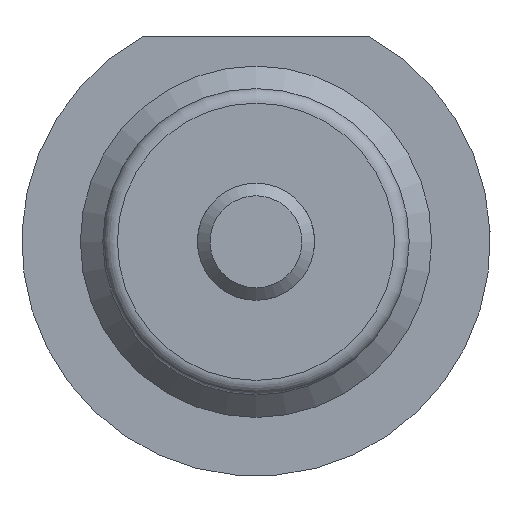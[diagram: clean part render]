
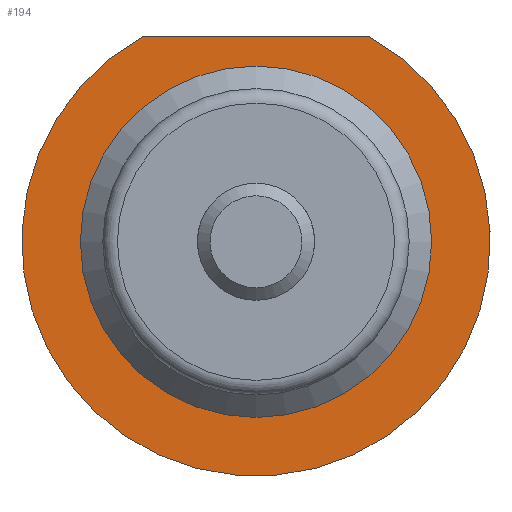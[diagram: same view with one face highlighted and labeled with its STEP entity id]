
A CAD part, left-side view. The second image highlights one B-rep face of the part: STEP entity #194.
In plain terms, the highlighted planar face has unit normal (-1, 0, 0).
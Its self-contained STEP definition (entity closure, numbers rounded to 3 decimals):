
#194 = ADVANCED_FACE( '', ( #315, #316 ), #317, .F. );
#315 = FACE_OUTER_BOUND( '', #507, .T. );
#316 = FACE_BOUND( '', #508, .T. );
#317 = PLANE( '', #509 );
#507 = EDGE_LOOP( '', ( #765, #766 ) );
#508 = EDGE_LOOP( '', ( #767 ) );
#509 = AXIS2_PLACEMENT_3D( '', #768, #769, #770 );
#765 = ORIENTED_EDGE( '', *, *, #1086, .F. );
#766 = ORIENTED_EDGE( '', *, *, #1087, .T. );
#767 = ORIENTED_EDGE( '', *, *, #1084, .T. );
#768 = CARTESIAN_POINT( '', ( 0., 6., 0. ) );
#769 = DIRECTION( '', ( 1., 0., 0. ) );
#770 = DIRECTION( '', ( 0., 0., -1. ) );
#1084 = EDGE_CURVE( '', #1220, #1220, #1221, .T. );
#1086 = EDGE_CURVE( '', #1224, #1225, #1226, .T. );
#1087 = EDGE_CURVE( '', #1224, #1225, #1227, .T. );
#1220 = VERTEX_POINT( '', #1505 );
#1221 = CIRCLE( '', #1506, 6. );
#1224 = VERTEX_POINT( '', #1509 );
#1225 = VERTEX_POINT( '', #1510 );
#1226 = CIRCLE( '', #1511, 8. );
#1227 = LINE( '', #1512, #1513 );
#1505 = CARTESIAN_POINT( '', ( 0., 0., -6. ) );
#1506 = AXIS2_PLACEMENT_3D( '', #1736, #1737, #1738 );
#1509 = CARTESIAN_POINT( '', ( 0., -3.873, 7. ) );
#1510 = CARTESIAN_POINT( '', ( 0., 3.873, 7. ) );
#1511 = AXIS2_PLACEMENT_3D( '', #1742, #1743, #1744 );
#1512 = CARTESIAN_POINT( '', ( 0., -18.6, 7. ) );
#1513 = VECTOR( '', #1745, 1000. );
#1736 = CARTESIAN_POINT( '', ( 0., 0., 0. ) );
#1737 = DIRECTION( '', ( 1., 0., 0. ) );
#1738 = DIRECTION( '', ( 0., 0., -1. ) );
#1742 = CARTESIAN_POINT( '', ( 0., 0., 0. ) );
#1743 = DIRECTION( '', ( 1., 0., 0. ) );
#1744 = DIRECTION( '', ( 0., 0., -1. ) );
#1745 = DIRECTION( '', ( 0., 1., 0. ) );
